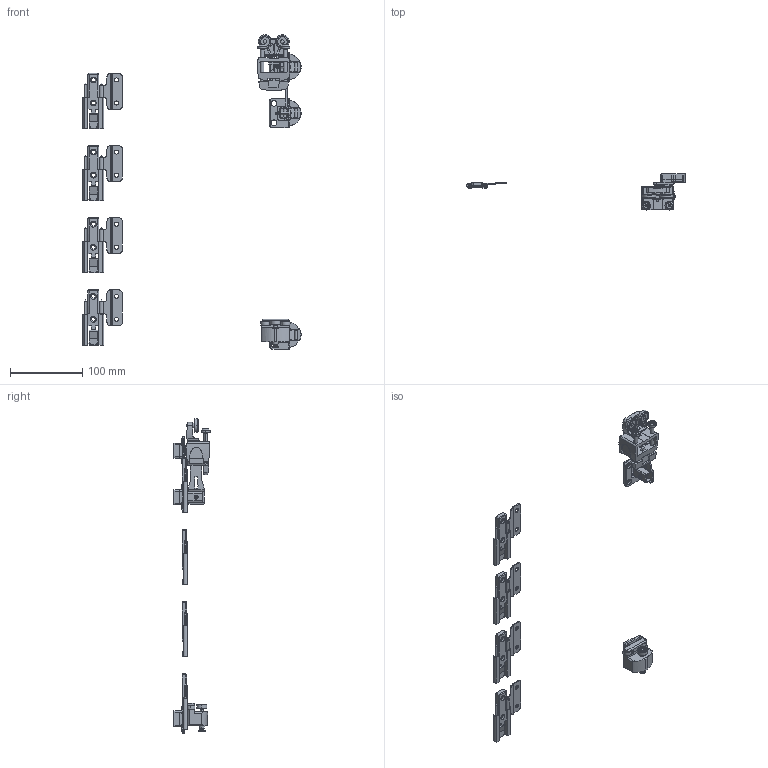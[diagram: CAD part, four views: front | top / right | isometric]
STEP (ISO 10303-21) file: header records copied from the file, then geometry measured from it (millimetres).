
FILE_DESCRIPTION( ( '' ), '1' );
FILE_NAME( 'C:/Documents and Settings/Sachin/Desktop/70969_close.stp', '2014-05-19T12:04:41', ( '' ), ( '' ), ' ', ' ', ' ' );
FILE_SCHEMA( ( 'CONFIG_CONTROL_DESIGN' ) );
Length unit declared in the file: millimetre
Products named in the file (10): 1; 2; 3; 4; 5; 6; 7; 8; 9; 10
Bounding box: 302.36 x 49.98 x 435.95 mm (x, y, z)
Volume: 117469.4 mm3; surface area: 87395.6 mm2
Topology: 10 solids, 10 shells, 1593 faces, 4628 edges, 3034 vertices
Faces by surface type: plane 927, cylinder 556, cone 64, torus 44, sphere 2
Entity records: 54634 total; most frequent: CARTESIAN_POINT 10771, ORIENTED_EDGE 9248, DIRECTION 9101, EDGE_CURVE 4624, LINE 3103, VECTOR 3103, VERTEX_POINT 3034, AXIS2_PLACEMENT_3D 2999
